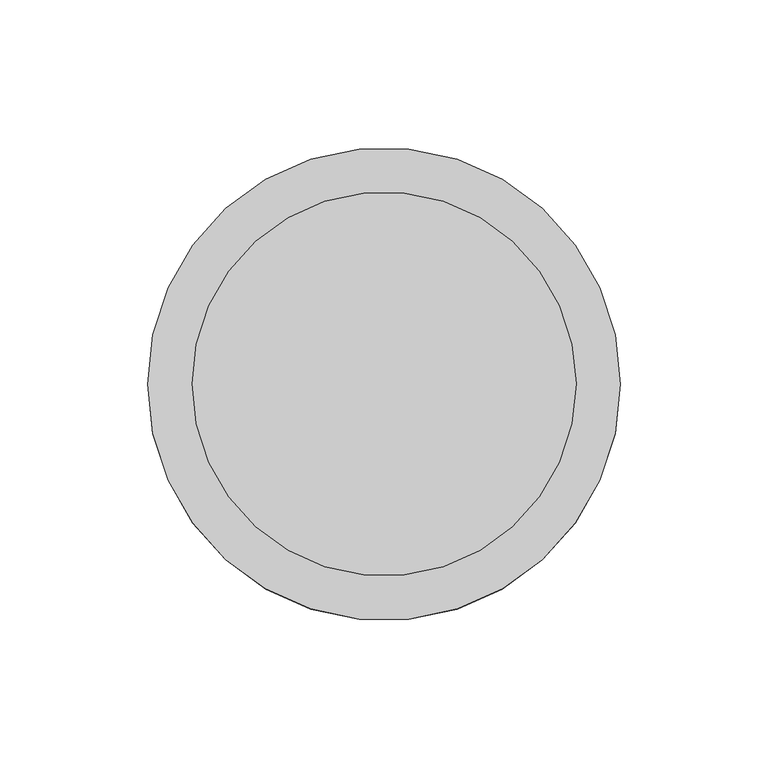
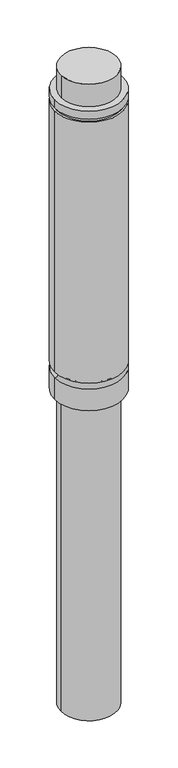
"""IFC4 building model written with IfcOpenShell, lengths in millimetres: air terminal geometry, NLRS_57_AIR_WPB_flue gas rooftop terminal_M&G : PP Black, ø130."""

from ifc_helpers import new_model, si_unit, point, frame, origin, origin_with_axes, origin_2d, place, context, project, spatial, circle_curve, ellipse_curve, trimmed, segment, composite_curve, outline, extrude, source, transform, mapped, element, save
from ifc_brep_helpers import plane_surface, cylinder_surface, revolved_surface, advanced_brep


def air_terminal_c4a1c7fc(model_context):
    return source(origin(), model_context, "Body", "SolidModel", [
        advanced_brep(
        [(-80.0, 0.0, 741.0), (80.0, 0.0, 741.0), (-80.0, 0.0, 0.0), (80.0, 0.0, 0.0), (-80.0, 0.0, 721.0), (80.0, 0.0, 721.0), (80.0, 0.0, 52.5), (-80.0, 0.0, 52.5), (80.0, 0.0, 713.0), (-80.0, 0.0, 713.0), (-80.0, 0.0, 67.5), (80.0, 0.0, 67.5), (75.0, 0.0, 721.0), (75.0, 0.0, 713.0), (-75.0, 0.0, 713.0), (-75.0, 0.0, 721.0)],
        [
            (0, 1, circle_curve(frame((0.0, 0.0, 741.0), z_axis=(0.0, 0.0, 1.0), x_axis=(1.0, 0.0, 0.0)), 80.0)),
            (1, 0, circle_curve(frame((0.0, 0.0, 741.0), z_axis=(0.0, 0.0, 1.0), x_axis=(1.0, 0.0, 0.0)), 80.0)),
            (2, 3, circle_curve(frame((0.0, 0.0, 0.0), z_axis=(0.0, 0.0, -1.0), x_axis=(1.0, 0.0, 0.0)), 80.0)),
            (3, 2, circle_curve(frame((0.0, 0.0, 0.0), z_axis=(0.0, 0.0, -1.0), x_axis=(1.0, 0.0, 0.0)), 80.0)),
            (0, 4),
            (4, 5, circle_curve(frame((0.0, 0.0, 721.0), z_axis=(0.0, 0.0, 1.0), x_axis=(1.0, 0.0, 0.0)), 80.0)),
            (5, 1),
            (3, 6),
            (6, 7, circle_curve(frame((0.0, 0.0, 52.5), z_axis=(0.0, 0.0, -1.0), x_axis=(1.0, 0.0, 0.0)), 80.0)),
            (7, 2),
            (8, 9, circle_curve(frame((0.0, 0.0, 713.0), z_axis=(0.0, 0.0, -1.0), x_axis=(1.0, 0.0, 0.0)), 80.0)),
            (9, 10),
            (10, 11, circle_curve(frame((0.0, 0.0, 67.5), z_axis=(0.0, 0.0, 1.0), x_axis=(1.0, 0.0, 0.0)), 80.0)),
            (11, 8),
            (5, 4, circle_curve(frame((0.0, 0.0, 721.0), z_axis=(0.0, 0.0, 1.0), x_axis=(1.0, 0.0, 0.0)), 80.0)),
            (7, 6, circle_curve(frame((0.0, 0.0, 52.5), z_axis=(0.0, 0.0, -1.0), x_axis=(1.0, 0.0, 0.0)), 80.0)),
            (9, 8, circle_curve(frame((0.0, 0.0, 713.0), z_axis=(0.0, 0.0, -1.0), x_axis=(1.0, 0.0, 0.0)), 80.0)),
            (11, 10, circle_curve(frame((0.0, 0.0, 67.5), z_axis=(0.0, 0.0, 1.0), x_axis=(1.0, 0.0, 0.0)), 80.0)),
            (12, 13),
            (13, 14, circle_curve(frame((0.0, 0.0, 713.0), z_axis=(0.0, 0.0, 1.0), x_axis=(-1.0, 0.0, 0.0)), 75.0)),
            (14, 15),
            (15, 12, circle_curve(frame((0.0, 0.0, 721.0), z_axis=(0.0, 0.0, -1.0), x_axis=(-1.0, 0.0, 0.0)), 75.0)),
            (15, 12, circle_curve(frame((0.0, 0.0, 721.0), z_axis=(0.0, 0.0, 1.0), x_axis=(1.0, 0.0, 0.0)), 75.0)),
            (13, 14, circle_curve(frame((0.0, 0.0, 713.0), z_axis=(0.0, 0.0, -1.0), x_axis=(1.0, 0.0, 0.0)), 75.0)),
            (7, 10, circle_curve(frame((-80.0, 0.0, 60.0), z_axis=(0.0, -1.0, 0.0), x_axis=(-1.0, 0.0, 0.0)), 7.5)),
            (11, 6, circle_curve(frame((80.0, 0.0, 60.0), z_axis=(0.0, -1.0, 0.0), x_axis=(1.0, 0.0, 0.0)), 7.5)),
        ],
        [
            plane_surface(frame((80.0, 0.0, 741.0), z_axis=(0.0, 0.0, 1.0), x_axis=(0.0, 1.0, 0.0))),
            plane_surface(frame((80.0, 0.0, 0.0), z_axis=(0.0, 0.0, -1.0), x_axis=(0.0, -1.0, 0.0))),
            cylinder_surface(origin_with_axes(), 80.0),
            cylinder_surface(frame((0.0, 0.0, 741.0), z_axis=(0.0, 0.0, -1.0), x_axis=(-1.0, 0.0, 0.0)), 75.0),
            plane_surface(frame((0.0, 0.0, 721.0), z_axis=(0.0, 0.0, -1.0), x_axis=(1.0, 0.0, 0.0))),
            plane_surface(frame((0.0, 0.0, 713.0), z_axis=(0.0, 0.0, 1.0), x_axis=(1.0, 0.0, 0.0))),
            cylinder_surface(frame((0.0, 0.0, 741.0), z_axis=(0.0, 0.0, -1.0), x_axis=(1.0, 0.0, 0.0)), 75.0),
            revolved_surface(trimmed(ellipse_curve(frame((80.0, 0.0, 60.0), z_axis=(0.0, 1.0, 0.0), x_axis=(1.0, 0.0, 0.0)), 7.5, 7.5), [point((80.0, 0.0, 52.5))], [point((80.0, 0.0, 67.5))], True, "CARTESIAN"), (0.0, 0.0, 0.0), (0.0, 0.0, 1.0)),
            revolved_surface(trimmed(ellipse_curve(frame((-80.0, 0.0, 60.0), z_axis=(0.0, -1.0, 0.0), x_axis=(-1.0, 0.0, 0.0)), 7.5, 7.5), [point((-80.0, 0.0, 52.5))], [point((-80.0, 0.0, 67.5))], True, "CARTESIAN"), (0.0, 0.0, 0.0), (0.0, 0.0, 1.0)),
        ],
        [
            (0, [[1, 2]]),
            (1, [[3, 4]]),
            (2, [[-1, 5, 6, 7]]),
            (2, [[-4, 8, 9, 10]]),
            (2, [[11, 12, 13, 14]]),
            (2, [[-2, -7, 15, -5]]),
            (2, [[-3, -10, 16, -8]]),
            (2, [[17, -14, 18, -12]]),
            (3, [[19, 20, 21, 22]]),
            (4, [[-6, -15], [-22, 23]]),
            (5, [[-11, -17], [-20, 24]]),
            (6, [[-19, -23, -21, -24]]),
            (7, [[25, -18, 26, -16]]),
            (8, [[-25, -9, -26, -13]]),
        ],
    ),
        extrude(outline(composite_curve([segment(trimmed(circle_curve(origin_2d(), 65.0), [point((65.0, 0.0))], [point((-65.0, 0.0))], False, "CARTESIAN"), True, "CONTINUOUS"), segment(trimmed(circle_curve(origin_2d(), 65.0), [point((-65.0, 0.0))], [point((65.0, 0.0))], False, "CARTESIAN"), True, "CONTINUOUS")], self_intersect=False)), frame((0.0, 0.0, 741.0), z_axis=(0.0, 0.0, 1.0), x_axis=(1.0, 0.0, 0.0)), (0.0, 0.0, 1.0), 56.0),
        extrude(outline(composite_curve([segment(trimmed(circle_curve(origin_2d(), 65.0), [point((-65.0, 0.0))], [point((65.0, 0.0))], False, "CARTESIAN"), True, "CONTINUOUS"), segment(trimmed(circle_curve(origin_2d(), 65.0), [point((65.0, 0.0))], [point((-65.0, 0.0))], False, "CARTESIAN"), True, "CONTINUOUS")], self_intersect=False)), frame((0.0, 0.0, -778.0), z_axis=(0.0, 0.0, 1.0), x_axis=(1.0, 0.0, 0.0)), (0.0, 0.0, 1.0), 778.0),
    ])


if __name__ == "__main__":
    model = new_model("IFC4")
    model_context = context("Model", 3, world=origin())
    ifc_project = project(units=[si_unit("LENGTHUNIT", "METRE", prefix="MILLI")], contexts=[model_context])
    site = spatial("IfcSite", under=ifc_project)
    building = spatial("IfcBuilding", under=site)
    placement = place(None, origin())
    air_terminal_shape = air_terminal_c4a1c7fc(model_context)
    element("IfcAirTerminal", 1, ObjectType="NLRS_57_AIR_WPB_flue gas rooftop terminal_M&G : PP Black, ø130", at=placement, inside=building, context=model_context, shape_type="MappedRepresentation", body=[
        mapped(air_terminal_shape, transform((0.0, 0.0, 0.0), x_axis=(1.0, 0.0, 0.0), y_axis=(0.0, 1.0, 0.0), z_axis=(0.0, 0.0, 1.0))),
    ])
    save(model, "model.ifc")
